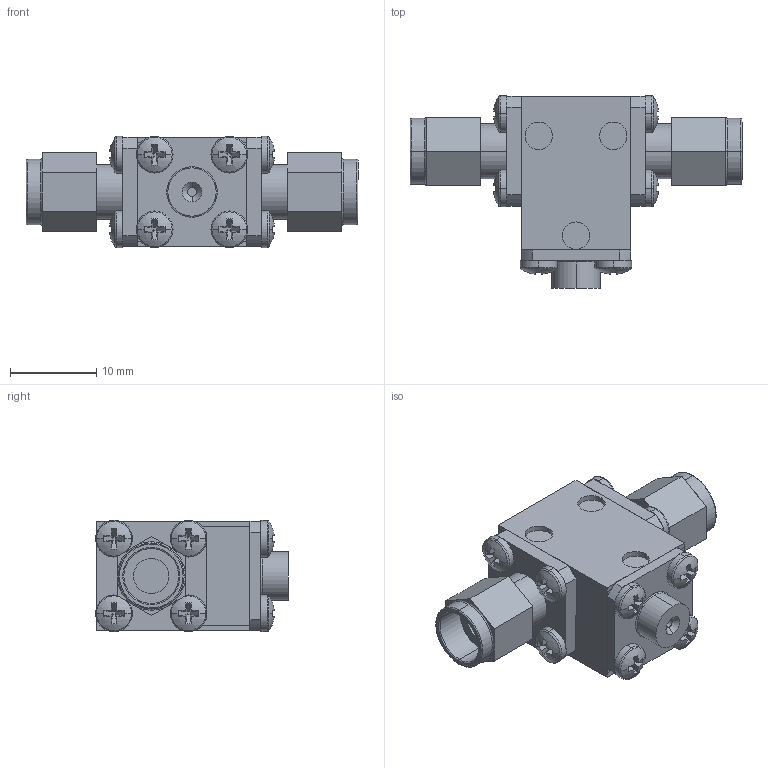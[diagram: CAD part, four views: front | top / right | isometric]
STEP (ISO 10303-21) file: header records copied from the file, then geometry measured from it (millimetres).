
FILE_DESCRIPTION (( 'STEP AP214' ), '1' );
FILE_NAME ('Package 5 Iso MM.step', '2021-12-01T21:01:11', ( '' ), ( '' ), 'SwSTEP 2.0', 'SolidWorks 2016', '' );
FILE_SCHEMA (( 'AUTOMOTIVE_DESIGN' ));
Length unit declared in the file: inch
Products named in the file (6): pan cross head_ai_CR-PHMS 0.086-56x0.125x0.125-N; Package 5 Iso MM; Delta SMA-Male; 030013-1A; Package 5; Package Size 5
Assembly tree (17 placements, depth 2):
  Package 5 Iso MM
    Package Size 5
    Package 5
    030013-1A
    pan cross head_ai_CR-PHMS 0.086-56x0.125x0.125-N  x12
    Delta SMA-Male  x2
Bounding box: 38.46 x 22.31 x 12.88 mm (x, y, z)
Volume: 4439.2 mm3; surface area: 5391.4 mm2
Topology: 17 solids, 17 shells, 430 faces, 980 edges, 604 vertices
Faces by surface type: plane 246, cylinder 118, torus 38, sphere 24, cone 4
Entity records: 4284 total; most frequent: DIRECTION 774, CARTESIAN_POINT 668, ORIENTED_EDGE 632, EDGE_CURVE 316, AXIS2_PLACEMENT_3D 308, VERTEX_POINT 202, EDGE_LOOP 168, VECTOR 158
